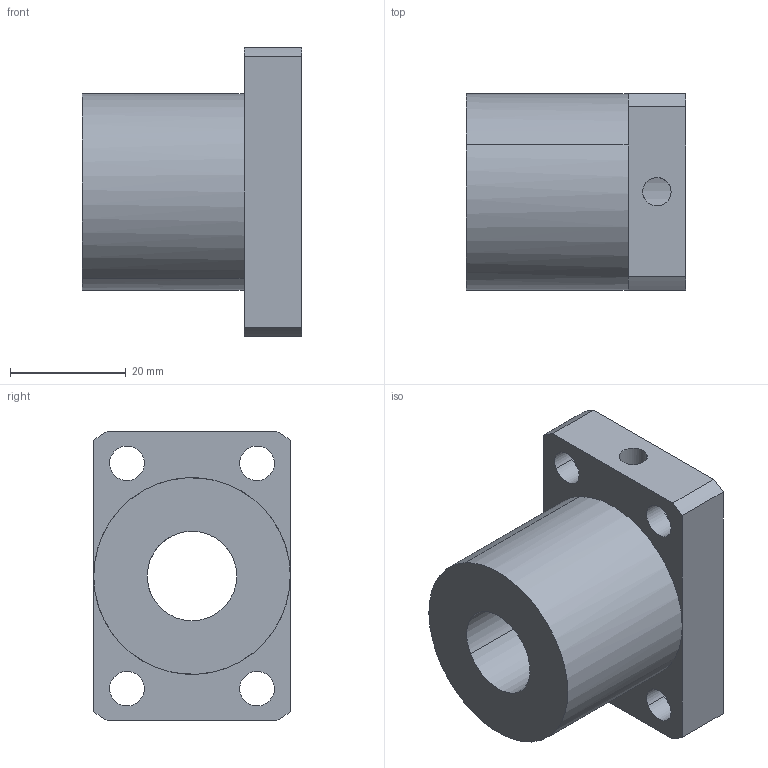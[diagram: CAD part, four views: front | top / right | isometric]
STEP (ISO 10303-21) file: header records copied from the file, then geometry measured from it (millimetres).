
FILE_DESCRIPTION(('CATIA V5 STEP Exchange'),'2;1');
FILE_NAME('C:\Users\aa\Documents\이댈\볼스크류\SFGR\링크X\SFGR1505K.stp','2018-11-16T05:01:07+00:00',('none'),('none'),'CATIA Version 5 Release 20 SP 7 (IN-10)','CATIA V5 STEP AP203','none');
FILE_SCHEMA(('CONFIG_CONTROL_DESIGN'));
Length unit declared in the file: millimetre
Products named in the file (1): Part1
Bounding box: 38 x 34 x 50 mm (x, y, z)
Volume: 32646.2 mm3; surface area: 10521.1 mm2
Topology: 1 solids, 1 shells, 40 faces, 105 edges, 70 vertices
Faces by surface type: cylinder 28, plane 12
Entity records: 1467 total; most frequent: CARTESIAN_POINT 462, ORIENTED_EDGE 210, DIRECTION 156, EDGE_CURVE 105, AXIS2_PLACEMENT_3D 80, VERTEX_POINT 70, EDGE_LOOP 57, CIRCLE 45
